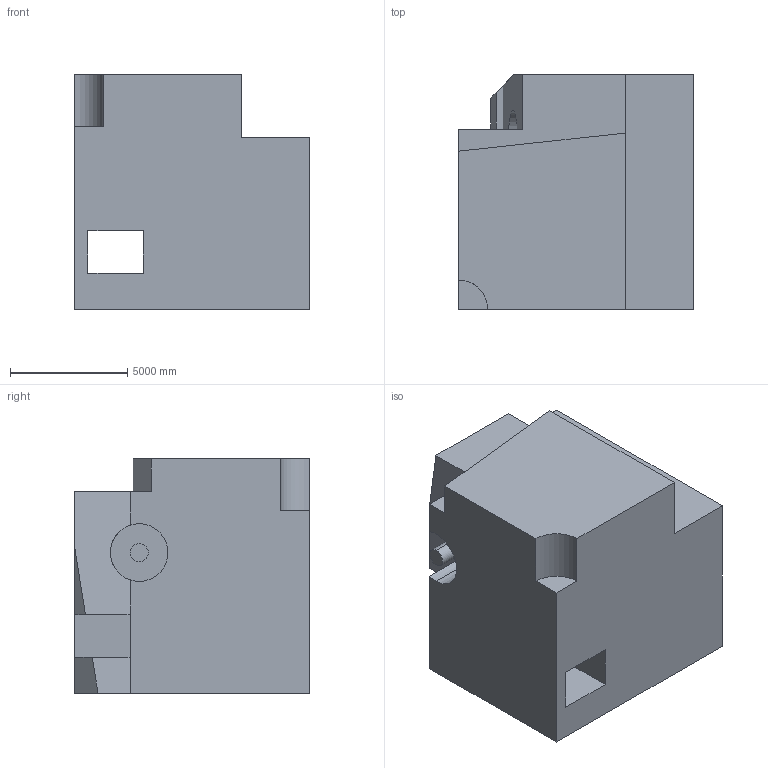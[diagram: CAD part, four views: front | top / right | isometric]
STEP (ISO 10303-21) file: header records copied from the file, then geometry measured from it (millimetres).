
FILE_DESCRIPTION (( 'STEP AP203' ), '1' );
FILE_NAME ('616.STEP', '2022-07-29T12:06:51', ( 'user' ), ( '' ), 'SwSTEP 2.0', 'SolidWorks 2021', '' );
FILE_SCHEMA (( 'CONFIG_CONTROL_DESIGN' ));
Length unit declared in the file: centimetre
Products named in the file (1): 616
Bounding box: 10000 x 10000 x 10000 mm (x, y, z)
Volume: 793568450407.9 mm3; surface area: 661061793.3 mm2
Topology: 1 solids, 1 shells, 28 faces, 78 edges, 52 vertices
Faces by surface type: plane 23, cylinder 5
Entity records: 974 total; most frequent: CARTESIAN_POINT 162, ORIENTED_EDGE 156, DIRECTION 146, EDGE_CURVE 78, VECTOR 66, LINE 66, VERTEX_POINT 52, AXIS2_PLACEMENT_3D 40
